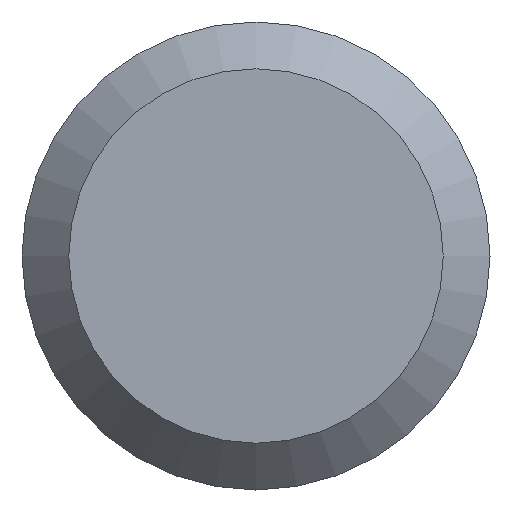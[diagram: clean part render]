
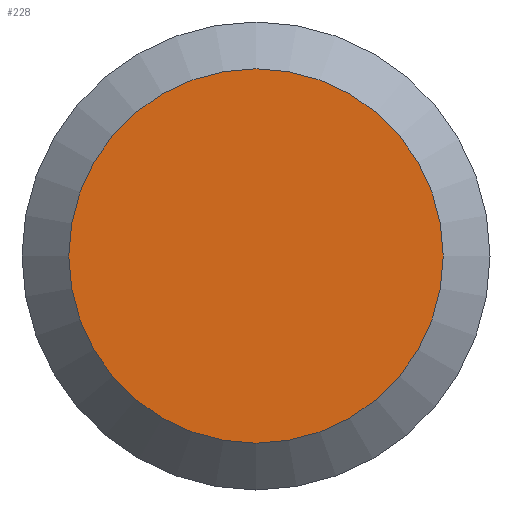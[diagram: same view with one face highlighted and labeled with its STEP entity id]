
A CAD part, left-side view. The second image highlights one B-rep face of the part: STEP entity #228.
In plain terms, the highlighted planar face has unit normal (-1, 0, 0).
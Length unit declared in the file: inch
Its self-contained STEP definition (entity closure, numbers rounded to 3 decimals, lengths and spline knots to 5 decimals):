
#46 = FACE_OUTER_BOUND ( 'NONE', #76, .T. ) ;
#49 = DIRECTION ( 'NONE',  ( 0., 0., -1. ) ) ;
#55 = EDGE_CURVE ( 'NONE', #129, #129, #87, .T. ) ;
#69 = PLANE ( 'NONE',  #108 ) ;
#76 = EDGE_LOOP ( 'NONE', ( #153 ) ) ;
#87 = CIRCLE ( 'NONE', #104, 0.0588 ) ;
#104 = AXIS2_PLACEMENT_3D ( 'NONE', #248, #162, #49 ) ;
#108 = AXIS2_PLACEMENT_3D ( 'NONE', #159, #240, #139 ) ;
#129 = VERTEX_POINT ( 'NONE', #215 ) ;
#139 = DIRECTION ( 'NONE',  ( 0., 0., -1. ) ) ;
#153 = ORIENTED_EDGE ( 'NONE', *, *, #55, .T. ) ;
#159 = CARTESIAN_POINT ( 'NONE',  ( 0., 0.0735, 0. ) ) ;
#162 = DIRECTION ( 'NONE',  ( -1., 0., 0. ) ) ;
#215 = CARTESIAN_POINT ( 'NONE',  ( 0., 0., -0.0588 ) ) ;
#228 = ADVANCED_FACE ( 'NONE', ( #46 ), #69, .F. ) ;
#240 = DIRECTION ( 'NONE',  ( 1., 0., 0. ) ) ;
#248 = CARTESIAN_POINT ( 'NONE',  ( 0., 0., 0. ) ) ;
